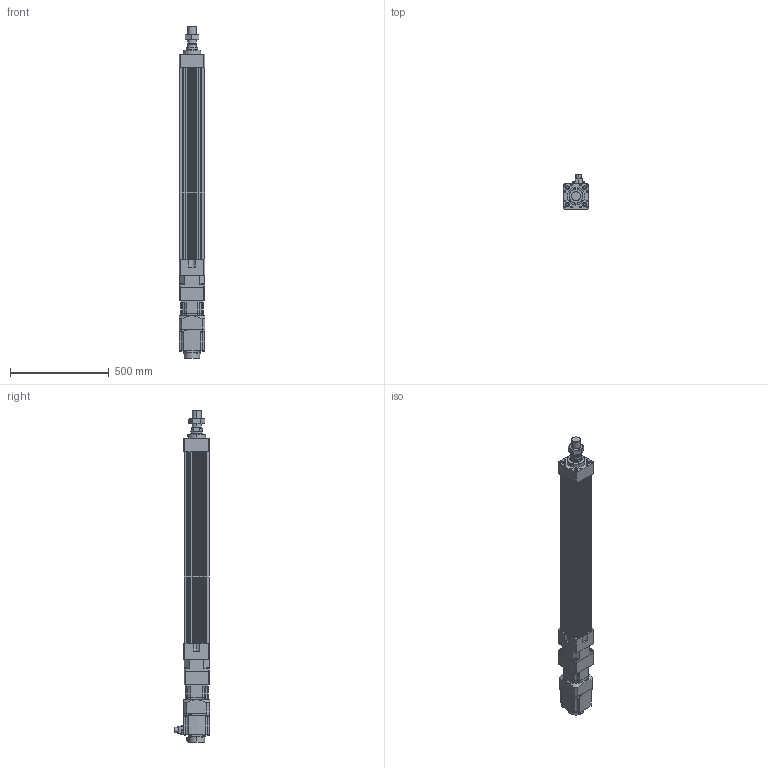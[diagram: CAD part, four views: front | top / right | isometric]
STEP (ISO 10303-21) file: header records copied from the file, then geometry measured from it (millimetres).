
FILE_DESCRIPTION (( 'STEP AP203' ), '1' );
FILE_NAME ('HES130NS(FS)(HS)-S750-W015G00-M.STEP', '2023-01-30T08:31:56', ( 'tms' ), ( '' ), 'SwSTEP 2.0', 'SolidWorks 2013', '' );
FILE_SCHEMA (( 'CONFIG_CONTROL_DESIGN' ));
Length unit declared in the file: millimetre
Products named in the file (8): HG-SR152; HES130 ROD M ST750; AB1151; P0401400706; AB115-003[HG-SR152]; M45X1.5P; HES130NS(FS)(HS)-S750-W015G00-M; HES130-S750-G120
Assembly tree (7 placements, depth 3):
  HES130NS(FS)(HS)-S750-W015G00-M
    HES130-S750-G120
    HES130 ROD M ST750
    M45X1.5P
    AB115-003[HG-SR152]
      AB1151
      P0401400706
    HG-SR152
Bounding box: 130 x 177.49 x 1679.5 mm (x, y, z)
Volume: 13171357.2 mm3; surface area: 1754610.1 mm2
Topology: 4 solids, 15 shells, 1220 faces, 3076 edges, 1983 vertices
Faces by surface type: cylinder 553, plane 551, cone 104, bspline 8, torus 4
Entity records: 38254 total; most frequent: CARTESIAN_POINT 7242, DIRECTION 6653, ORIENTED_EDGE 6060, EDGE_CURVE 3040, AXIS2_PLACEMENT_3D 2462, VERTEX_POINT 1983, VECTOR 1729, LINE 1729
